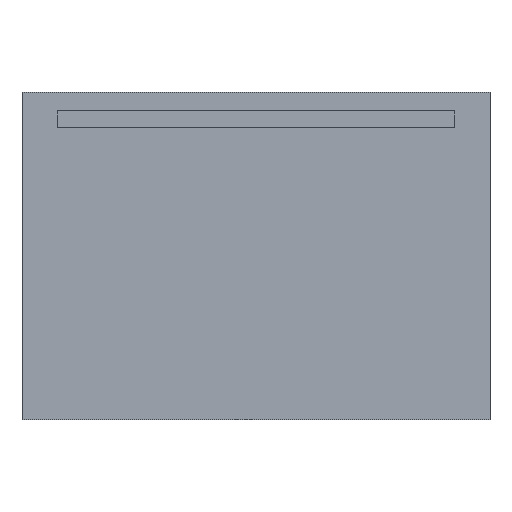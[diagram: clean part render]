
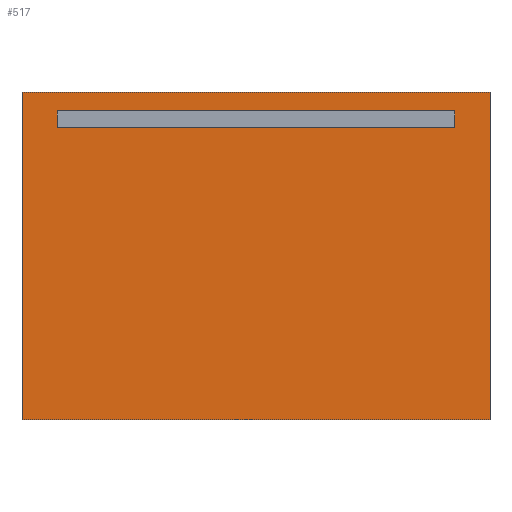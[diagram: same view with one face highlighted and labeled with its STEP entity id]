
A CAD part, front view. The second image highlights one B-rep face of the part: STEP entity #517.
In plain terms, the highlighted planar face has unit normal (0, -1, 0).
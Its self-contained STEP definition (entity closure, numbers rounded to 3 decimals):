
#47=FACE_BOUND('',#92,.T.);
#62=FACE_OUTER_BOUND('',#91,.T.);
#91=EDGE_LOOP('',(#359,#360,#361,#362));
#92=EDGE_LOOP('',(#363,#364,#365,#366));
#115=LINE('',#766,#159);
#119=LINE('',#774,#163);
#122=LINE('',#780,#166);
#125=LINE('',#785,#169);
#127=LINE('',#791,#171);
#131=LINE('',#799,#175);
#134=LINE('',#805,#178);
#137=LINE('',#810,#181);
#159=VECTOR('',#614,10.);
#163=VECTOR('',#620,10.);
#166=VECTOR('',#625,10.);
#169=VECTOR('',#630,10.);
#171=VECTOR('',#636,10.);
#175=VECTOR('',#642,10.);
#178=VECTOR('',#647,10.);
#181=VECTOR('',#652,10.);
#203=VERTEX_POINT('',#764);
#204=VERTEX_POINT('',#765);
#207=VERTEX_POINT('',#773);
#209=VERTEX_POINT('',#779);
#211=VERTEX_POINT('',#789);
#212=VERTEX_POINT('',#790);
#215=VERTEX_POINT('',#798);
#217=VERTEX_POINT('',#804);
#251=EDGE_CURVE('',#203,#204,#115,.T.);
#255=EDGE_CURVE('',#207,#203,#119,.T.);
#258=EDGE_CURVE('',#209,#207,#122,.T.);
#261=EDGE_CURVE('',#204,#209,#125,.T.);
#263=EDGE_CURVE('',#211,#212,#127,.T.);
#267=EDGE_CURVE('',#215,#211,#131,.T.);
#270=EDGE_CURVE('',#217,#215,#134,.T.);
#273=EDGE_CURVE('',#212,#217,#137,.T.);
#359=ORIENTED_EDGE('',*,*,#273,.F.);
#360=ORIENTED_EDGE('',*,*,#263,.F.);
#361=ORIENTED_EDGE('',*,*,#267,.F.);
#362=ORIENTED_EDGE('',*,*,#270,.F.);
#363=ORIENTED_EDGE('',*,*,#251,.T.);
#364=ORIENTED_EDGE('',*,*,#261,.T.);
#365=ORIENTED_EDGE('',*,*,#258,.T.);
#366=ORIENTED_EDGE('',*,*,#255,.T.);
#465=PLANE('',#567);
#517=ADVANCED_FACE('',(#62,#47),#465,.F.);
#567=AXIS2_PLACEMENT_3D('',#813,#656,#657);
#614=DIRECTION('',(0.,0.,-1.));
#620=DIRECTION('',(1.,0.,0.));
#625=DIRECTION('',(0.,0.,1.));
#630=DIRECTION('',(-1.,0.,0.));
#636=DIRECTION('',(0.,0.,1.));
#642=DIRECTION('',(-1.,0.,0.));
#647=DIRECTION('',(0.,0.,-1.));
#652=DIRECTION('',(1.,0.,0.));
#656=DIRECTION('center_axis',(0.,1.,0.));
#657=DIRECTION('ref_axis',(0.,0.,1.));
#764=CARTESIAN_POINT('',(425.,-26.,660.));
#765=CARTESIAN_POINT('',(425.,-26.,625.));
#766=CARTESIAN_POINT('',(425.,-26.,505.));
#773=CARTESIAN_POINT('',(-425.,-26.,660.));
#774=CARTESIAN_POINT('',(-212.5,-26.,660.));
#779=CARTESIAN_POINT('',(-425.,-26.,625.));
#780=CARTESIAN_POINT('',(-425.,-26.,487.5));
#785=CARTESIAN_POINT('',(212.5,-26.,625.));
#789=CARTESIAN_POINT('',(-500.,-26.,0.));
#790=CARTESIAN_POINT('',(-500.,-26.,700.));
#791=CARTESIAN_POINT('',(-500.,-26.,0.));
#798=CARTESIAN_POINT('',(500.,-26.,0.));
#799=CARTESIAN_POINT('',(500.,-26.,0.));
#804=CARTESIAN_POINT('',(500.,-26.,700.));
#805=CARTESIAN_POINT('',(500.,-26.,700.));
#810=CARTESIAN_POINT('',(-500.,-26.,700.));
#813=CARTESIAN_POINT('Origin',(0.,-26.,350.));
